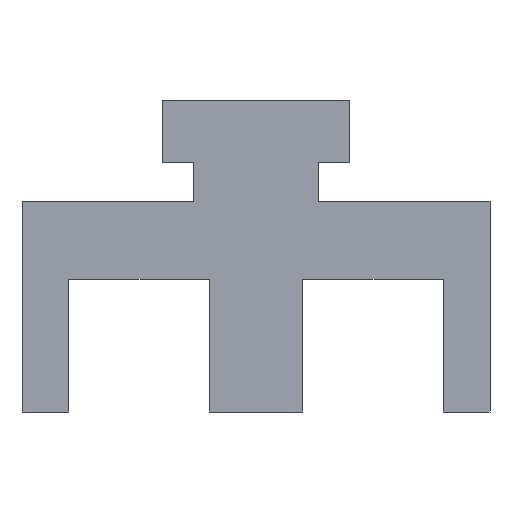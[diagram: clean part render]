
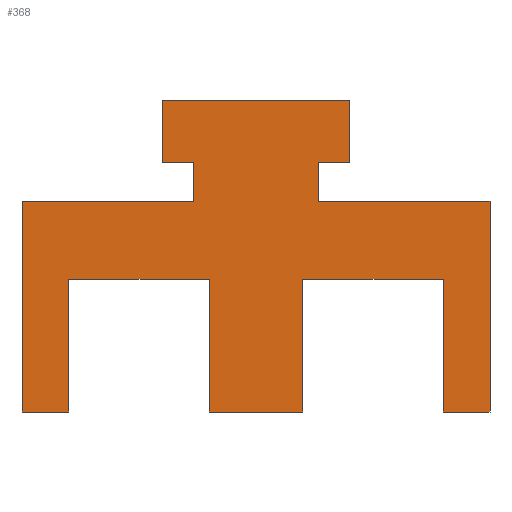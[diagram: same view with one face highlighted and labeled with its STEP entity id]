
A CAD part, front view. The second image highlights one B-rep face of the part: STEP entity #368.
In plain terms, the highlighted planar face has unit normal (0, -1, 0).
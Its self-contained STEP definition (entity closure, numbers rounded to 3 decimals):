
#1=DIRECTION('',(0.,0.,1.));
#2=VECTOR('',#1,8.5);
#3=CARTESIAN_POINT('',(-3.,0.,-13.5));
#4=LINE('',#3,#2);
#5=DIRECTION('',(-1.,0.,0.));
#6=VECTOR('',#5,9.);
#7=CARTESIAN_POINT('',(-3.,0.,-5.));
#8=LINE('',#7,#6);
#9=DIRECTION('',(0.,0.,-1.));
#10=VECTOR('',#9,8.5);
#11=CARTESIAN_POINT('',(-12.,0.,-5.));
#12=LINE('',#11,#10);
#13=DIRECTION('',(-1.,0.,0.));
#14=VECTOR('',#13,3.);
#15=CARTESIAN_POINT('',(-12.,0.,-13.5));
#16=LINE('',#15,#14);
#17=DIRECTION('',(0.,0.,1.));
#18=VECTOR('',#17,13.5);
#19=CARTESIAN_POINT('',(-15.,0.,-13.5));
#20=LINE('',#19,#18);
#21=DIRECTION('',(1.,0.,0.));
#22=VECTOR('',#21,11.);
#23=CARTESIAN_POINT('',(-15.,0.,0.));
#24=LINE('',#23,#22);
#25=DIRECTION('',(0.,0.,1.));
#26=VECTOR('',#25,2.5);
#27=CARTESIAN_POINT('',(-4.,0.,0.));
#28=LINE('',#27,#26);
#29=DIRECTION('',(-1.,0.,0.));
#30=VECTOR('',#29,2.);
#31=CARTESIAN_POINT('',(-4.,0.,2.5));
#32=LINE('',#31,#30);
#33=DIRECTION('',(0.,0.,1.));
#34=VECTOR('',#33,4.);
#35=CARTESIAN_POINT('',(-6.,0.,2.5));
#36=LINE('',#35,#34);
#37=DIRECTION('',(1.,0.,0.));
#38=VECTOR('',#37,12.);
#39=CARTESIAN_POINT('',(-6.,0.,6.5));
#40=LINE('',#39,#38);
#41=DIRECTION('',(0.,0.,-1.));
#42=VECTOR('',#41,4.);
#43=CARTESIAN_POINT('',(6.,0.,6.5));
#44=LINE('',#43,#42);
#45=DIRECTION('',(-1.,0.,0.));
#46=VECTOR('',#45,2.);
#47=CARTESIAN_POINT('',(6.,0.,2.5));
#48=LINE('',#47,#46);
#49=DIRECTION('',(0.,0.,-1.));
#50=VECTOR('',#49,2.5);
#51=CARTESIAN_POINT('',(4.,0.,2.5));
#52=LINE('',#51,#50);
#53=DIRECTION('',(1.,0.,0.));
#54=VECTOR('',#53,11.);
#55=CARTESIAN_POINT('',(4.,0.,0.));
#56=LINE('',#55,#54);
#57=DIRECTION('',(0.,0.,-1.));
#58=VECTOR('',#57,13.5);
#59=CARTESIAN_POINT('',(15.,0.,0.));
#60=LINE('',#59,#58);
#61=DIRECTION('',(-1.,0.,0.));
#62=VECTOR('',#61,3.);
#63=CARTESIAN_POINT('',(15.,0.,-13.5));
#64=LINE('',#63,#62);
#65=DIRECTION('',(0.,0.,1.));
#66=VECTOR('',#65,8.5);
#67=CARTESIAN_POINT('',(12.,0.,-13.5));
#68=LINE('',#67,#66);
#69=DIRECTION('',(-1.,0.,0.));
#70=VECTOR('',#69,9.);
#71=CARTESIAN_POINT('',(12.,0.,-5.));
#72=LINE('',#71,#70);
#73=DIRECTION('',(0.,0.,-1.));
#74=VECTOR('',#73,8.5);
#75=CARTESIAN_POINT('',(3.,0.,-5.));
#76=LINE('',#75,#74);
#77=DIRECTION('',(-1.,0.,0.));
#78=VECTOR('',#77,6.);
#79=CARTESIAN_POINT('',(3.,0.,-13.5));
#80=LINE('',#79,#78);
#241=CARTESIAN_POINT('',(-3.,0.,-13.5));
#242=CARTESIAN_POINT('',(-3.,0.,-5.));
#243=VERTEX_POINT('',#241);
#244=VERTEX_POINT('',#242);
#245=CARTESIAN_POINT('',(-12.,0.,-5.));
#246=VERTEX_POINT('',#245);
#247=CARTESIAN_POINT('',(-12.,0.,-13.5));
#248=VERTEX_POINT('',#247);
#249=CARTESIAN_POINT('',(-15.,0.,-13.5));
#250=VERTEX_POINT('',#249);
#251=CARTESIAN_POINT('',(-15.,0.,0.));
#252=VERTEX_POINT('',#251);
#253=CARTESIAN_POINT('',(-4.,0.,0.));
#254=VERTEX_POINT('',#253);
#255=CARTESIAN_POINT('',(-4.,0.,2.5));
#256=VERTEX_POINT('',#255);
#257=CARTESIAN_POINT('',(-6.,0.,2.5));
#258=VERTEX_POINT('',#257);
#259=CARTESIAN_POINT('',(-6.,0.,6.5));
#260=VERTEX_POINT('',#259);
#261=CARTESIAN_POINT('',(6.,0.,6.5));
#262=VERTEX_POINT('',#261);
#263=CARTESIAN_POINT('',(6.,0.,2.5));
#264=VERTEX_POINT('',#263);
#265=CARTESIAN_POINT('',(4.,0.,2.5));
#266=VERTEX_POINT('',#265);
#267=CARTESIAN_POINT('',(4.,0.,0.));
#268=VERTEX_POINT('',#267);
#269=CARTESIAN_POINT('',(15.,0.,0.));
#270=VERTEX_POINT('',#269);
#271=CARTESIAN_POINT('',(15.,0.,-13.5));
#272=VERTEX_POINT('',#271);
#273=CARTESIAN_POINT('',(12.,0.,-13.5));
#274=VERTEX_POINT('',#273);
#275=CARTESIAN_POINT('',(12.,0.,-5.));
#276=VERTEX_POINT('',#275);
#277=CARTESIAN_POINT('',(3.,0.,-5.));
#278=VERTEX_POINT('',#277);
#279=CARTESIAN_POINT('',(3.,0.,-13.5));
#280=VERTEX_POINT('',#279);
#321=CARTESIAN_POINT('',(0.,0.,0.));
#322=DIRECTION('',(0.,1.,0.));
#323=DIRECTION('',(1.,0.,0.));
#324=AXIS2_PLACEMENT_3D('',#321,#322,#323);
#325=PLANE('',#324);
#327=ORIENTED_EDGE('',*,*,#326,.T.);
#329=ORIENTED_EDGE('',*,*,#328,.T.);
#331=ORIENTED_EDGE('',*,*,#330,.T.);
#333=ORIENTED_EDGE('',*,*,#332,.T.);
#335=ORIENTED_EDGE('',*,*,#334,.T.);
#337=ORIENTED_EDGE('',*,*,#336,.T.);
#339=ORIENTED_EDGE('',*,*,#338,.T.);
#341=ORIENTED_EDGE('',*,*,#340,.T.);
#343=ORIENTED_EDGE('',*,*,#342,.T.);
#345=ORIENTED_EDGE('',*,*,#344,.T.);
#347=ORIENTED_EDGE('',*,*,#346,.T.);
#349=ORIENTED_EDGE('',*,*,#348,.T.);
#351=ORIENTED_EDGE('',*,*,#350,.T.);
#353=ORIENTED_EDGE('',*,*,#352,.T.);
#355=ORIENTED_EDGE('',*,*,#354,.T.);
#357=ORIENTED_EDGE('',*,*,#356,.T.);
#359=ORIENTED_EDGE('',*,*,#358,.T.);
#361=ORIENTED_EDGE('',*,*,#360,.T.);
#363=ORIENTED_EDGE('',*,*,#362,.T.);
#365=ORIENTED_EDGE('',*,*,#364,.T.);
#366=EDGE_LOOP('',(#327,#329,#331,#333,#335,#337,#339,#341,#343,#345,#347,#349,
#351,#353,#355,#357,#359,#361,#363,#365));
#367=FACE_OUTER_BOUND('',#366,.F.);
#368=ADVANCED_FACE('',(#367),#325,.F.);
#326=EDGE_CURVE('',#243,#244,#4,.T.);
#328=EDGE_CURVE('',#244,#246,#8,.T.);
#330=EDGE_CURVE('',#246,#248,#12,.T.);
#332=EDGE_CURVE('',#248,#250,#16,.T.);
#334=EDGE_CURVE('',#250,#252,#20,.T.);
#336=EDGE_CURVE('',#252,#254,#24,.T.);
#338=EDGE_CURVE('',#254,#256,#28,.T.);
#340=EDGE_CURVE('',#256,#258,#32,.T.);
#342=EDGE_CURVE('',#258,#260,#36,.T.);
#344=EDGE_CURVE('',#260,#262,#40,.T.);
#346=EDGE_CURVE('',#262,#264,#44,.T.);
#348=EDGE_CURVE('',#264,#266,#48,.T.);
#350=EDGE_CURVE('',#266,#268,#52,.T.);
#352=EDGE_CURVE('',#268,#270,#56,.T.);
#354=EDGE_CURVE('',#270,#272,#60,.T.);
#356=EDGE_CURVE('',#272,#274,#64,.T.);
#358=EDGE_CURVE('',#274,#276,#68,.T.);
#360=EDGE_CURVE('',#276,#278,#72,.T.);
#362=EDGE_CURVE('',#278,#280,#76,.T.);
#364=EDGE_CURVE('',#280,#243,#80,.T.);
